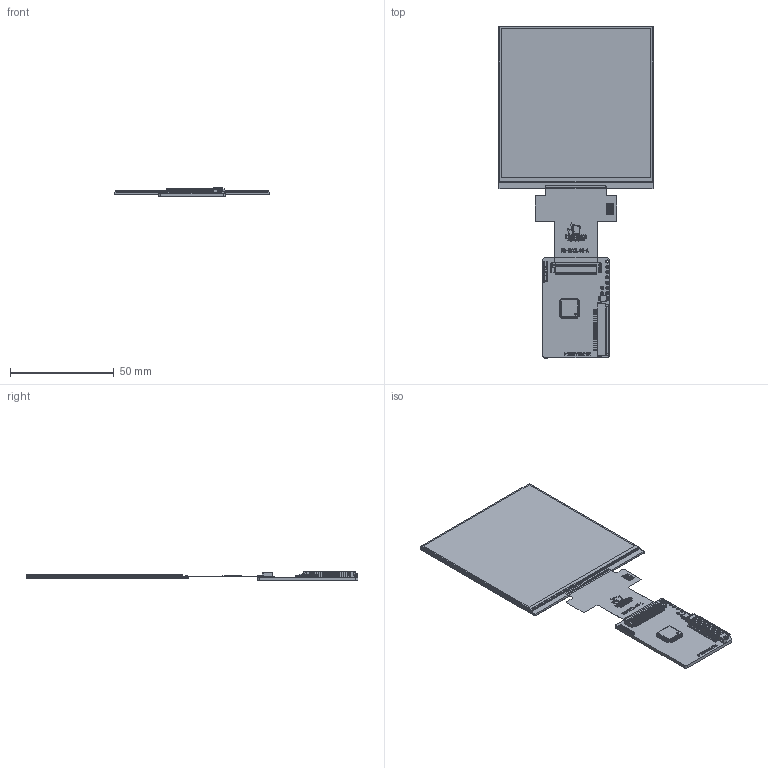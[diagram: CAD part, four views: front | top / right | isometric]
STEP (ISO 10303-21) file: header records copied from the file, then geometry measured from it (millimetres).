
FILE_DESCRIPTION (( 'STEP AP214' ), '1' );
FILE_NAME ('ER-TFT3.95-1-6011.STEP', '2024-08-26T05:49:43', ( '微软用户' ), ( '微软中国' ), 'SwSTEP 2.0', 'SolidWorks 2023', '' );
FILE_SCHEMA (( 'AUTOMOTIVE_DESIGN' ));
Length unit declared in the file: millimetre
Products named in the file (3): ER-6011-Controller Board; ER-TFT3.95-1-6011; ER-TFT3.95-1
Assembly tree (2 placements, depth 2):
  ER-TFT3.95-1-6011
    ER-6011-Controller Board
    ER-TFT3.95-1
Bounding box: 74.45 x 159.63 x 4.32 mm (x, y, z)
Volume: 14847.8 mm3; surface area: 21495.5 mm2
Topology: 183 solids, 183 shells, 5269 faces, 15472 edges, 10157 vertices
Faces by surface type: plane 4060, bspline 660, cylinder 549
Entity records: 257536 total; most frequent: CARTESIAN_POINT 63645, ORIENTED_EDGE 30914, DIRECTION 24437, EDGE_CURVE 15457, VECTOR 12973, LINE 12973, VERTEX_POINT 10157, AXIS2_PLACEMENT_3D 5732
